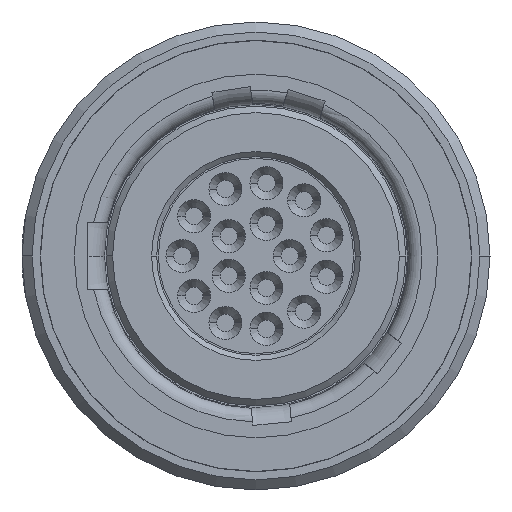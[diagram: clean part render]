
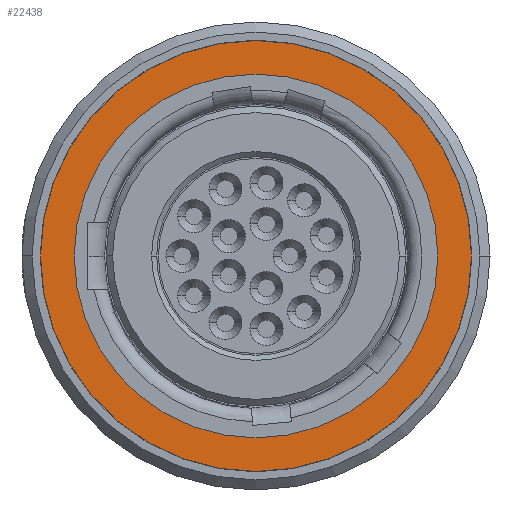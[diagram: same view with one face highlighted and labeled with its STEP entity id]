
A CAD part, left-side view. The second image highlights one B-rep face of the part: STEP entity #22438.
In plain terms, the highlighted planar face has unit normal (-1, 0, 0).
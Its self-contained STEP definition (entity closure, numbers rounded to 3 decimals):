
#5404=CARTESIAN_POINT('',(-8.01,0.,0.));
#5405=DIRECTION('',(1.,0.,0.));
#5406=DIRECTION('',(0.,1.,0.));
#5407=AXIS2_PLACEMENT_3D('',#5404,#5405,#5406);
#5409=CARTESIAN_POINT('',(-8.01,0.,0.));
#5410=DIRECTION('',(1.,0.,0.));
#5411=DIRECTION('',(0.,-1.,0.));
#5412=AXIS2_PLACEMENT_3D('',#5409,#5410,#5411);
#5414=CARTESIAN_POINT('',(-8.01,0.,0.));
#5415=DIRECTION('',(-1.,0.,0.));
#5416=DIRECTION('',(0.,1.,0.));
#5417=AXIS2_PLACEMENT_3D('',#5414,#5415,#5416);
#5419=CARTESIAN_POINT('',(-8.01,0.,0.));
#5420=DIRECTION('',(-1.,0.,0.));
#5421=DIRECTION('',(0.,-1.,0.));
#5422=AXIS2_PLACEMENT_3D('',#5419,#5420,#5421);
#12245=CARTESIAN_POINT('',(-8.01,-6.4,0.));
#12246=VERTEX_POINT('',#12245);
#12247=CARTESIAN_POINT('',(-8.01,6.4,0.));
#12248=VERTEX_POINT('',#12247);
#12249=CARTESIAN_POINT('',(-8.01,5.4,0.));
#12250=CARTESIAN_POINT('',(-8.01,-5.4,0.));
#12251=VERTEX_POINT('',#12249);
#12252=VERTEX_POINT('',#12250);
#22423=CARTESIAN_POINT('',(-8.01,0.,0.));
#22424=DIRECTION('',(-1.,0.,0.));
#22425=DIRECTION('',(0.,1.,0.));
#22426=AXIS2_PLACEMENT_3D('',#22423,#22424,#22425);
#22427=PLANE('',#22426);
#22428=ORIENTED_EDGE('',*,*,#22388,.T.);
#22429=ORIENTED_EDGE('',*,*,#22410,.T.);
#22430=EDGE_LOOP('',(#22428,#22429));
#22431=FACE_OUTER_BOUND('',#22430,.F.);
#22433=ORIENTED_EDGE('',*,*,#22432,.T.);
#22435=ORIENTED_EDGE('',*,*,#22434,.T.);
#22436=EDGE_LOOP('',(#22433,#22435));
#22437=FACE_BOUND('',#22436,.F.);
#5408=CIRCLE('',#5407,6.4);
#5413=CIRCLE('',#5412,6.4);
#5418=CIRCLE('',#5417,5.4);
#5423=CIRCLE('',#5422,5.4);
#22388=EDGE_CURVE('',#12248,#12246,#5408,.T.);
#22410=EDGE_CURVE('',#12246,#12248,#5413,.T.);
#22432=EDGE_CURVE('',#12251,#12252,#5418,.T.);
#22434=EDGE_CURVE('',#12252,#12251,#5423,.T.);
#22438=ADVANCED_FACE('',(#22431,#22437),#22427,.T.);
